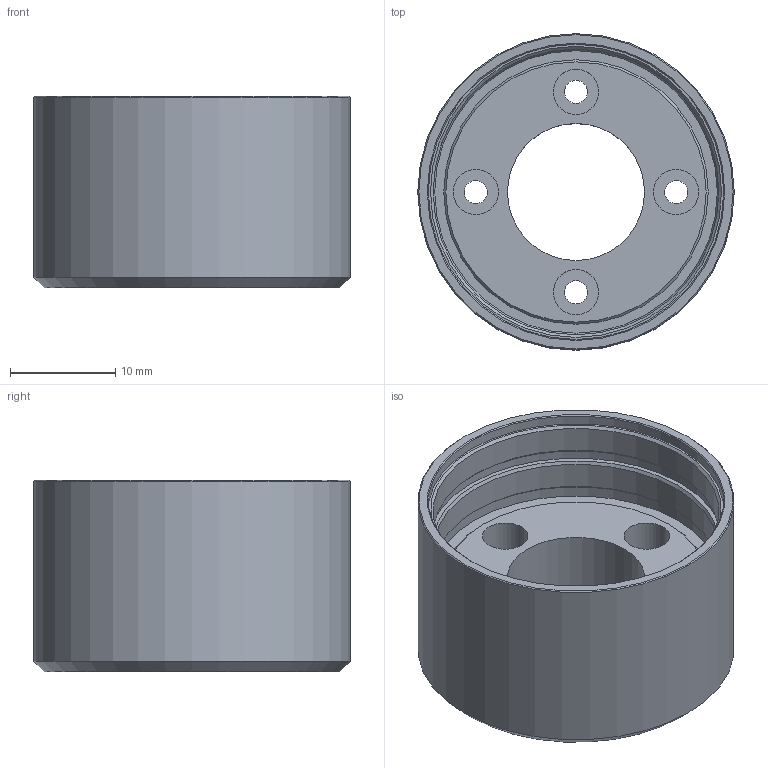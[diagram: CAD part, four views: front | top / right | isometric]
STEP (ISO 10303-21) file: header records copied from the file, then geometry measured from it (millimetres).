
FILE_DESCRIPTION(/* description */ (''),/* implementation_level */ '2;1');
FILE_NAME(/* name */ '30-1_flange_c.stp',/* time_stamp */ '2016-09-07T10:57:46+02:00',/* author */ ('DR. FRITZ FAULHABER GmbH & Co. KG'),/* organization */ ('DR. FRITZ FAULHABER GmbH & Co. KG'),/* preprocessor_version */ 'ST-DEVELOPER v16',/* originating_system */ 'SIEMENS PLM Software NX 10.0',/* authorisation */ '');
FILE_SCHEMA (('AUTOMOTIVE_DESIGN { 1 0 10303 214 3 1 1 1 }'));
Length unit declared in the file: millimetre
Products named in the file (1): F0200012036_F
Bounding box: 30 x 30 x 18.2 mm (x, y, z)
Volume: 6047.7 mm3; surface area: 4365.3 mm2
Topology: 1 solids, 1 shells, 35 faces, 81 edges, 64 vertices
Faces by surface type: cylinder 15, plane 11, cone 9
Full cylindrical faces by diameter (mm): 2.2 x4, 4.3 x4, 13 x1, 26.8 x1, 27.1 x1, 27.2 x1, 28 x2, 30 x1
Entity records: 891 total; most frequent: DIRECTION 164, CARTESIAN_POINT 125, AXIS2_PLACEMENT_3D 79, FACE_BOUND 78, EDGE_LOOP 78, ORIENTED_EDGE 78, CIRCLE 43, VERTEX_POINT 39
